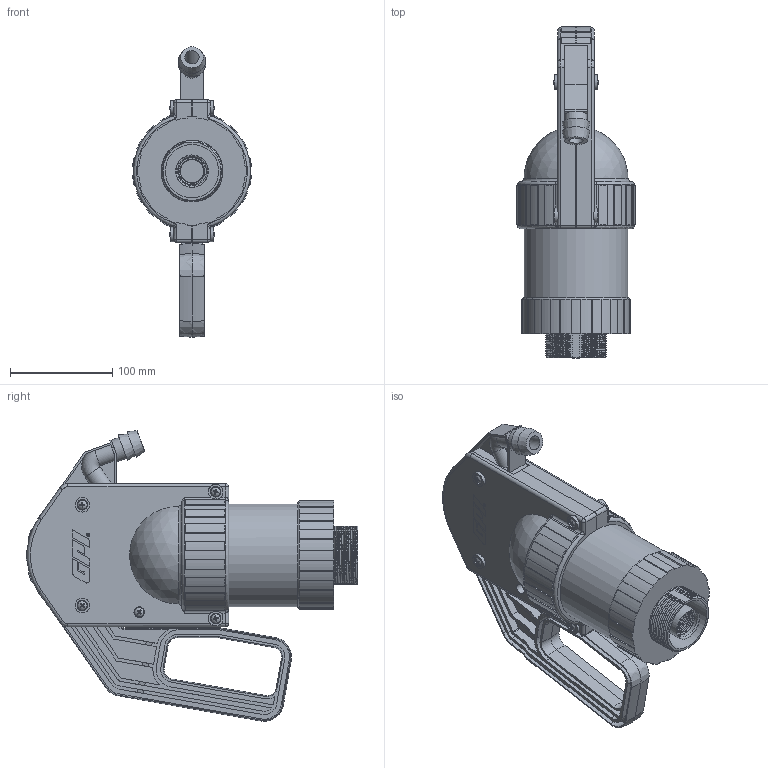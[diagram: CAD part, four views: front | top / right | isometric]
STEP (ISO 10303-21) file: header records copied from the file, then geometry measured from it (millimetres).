
FILE_DESCRIPTION(/* description */ (''),/* implementation_level */ '2;1');
FILE_NAME(/* name */ 'LP-50.stp',/* time_stamp */ '2024-08-01T14:39:37-05:00',/* author */ ('gdanhar'),/* organization */ (''),/* preprocessor_version */ 'ST-DEVELOPER v20',/* originating_system */ 'Autodesk Inventor 2024',/* authorisation */ '');
FILE_SCHEMA (('AUTOMOTIVE_DESIGN { 1 0 10303 214 3 1 1 }'));
Length unit declared in the file: inch
Products named in the file (3): 129000-02; 129000-1_LP-50_PUMP; 904002-22 CONTENT CENTER
Assembly tree (11 placements, depth 2):
  129000-02
    129000-1_LP-50_PUMP
    904002-22 CONTENT CENTER  x10
Bounding box: 116.1 x 324.1 x 283.58 mm (x, y, z)
Volume: 2248337.6 mm3; surface area: 322062.7 mm2
Topology: 13 solids, 13 shells, 1852 faces, 5127 edges, 3376 vertices
Faces by surface type: plane 812, cylinder 803, torus 83, bspline 75, cone 63, sphere 16
Full cylindrical faces by diameter (mm): 3.156 x2, 3.257 x2, 4.826 x10, 9.474 x10, 9.728 x10, 10.312 x10, 13.868 x2, 14.275 x8, 21.819 x1, 22.831 x1, 28.169 x1, 31.75 x1, 52.07 x1, 56.968 x1, 60.325 x1, 100.838 x1, 101.168 x1
Entity records: 37867 total; most frequent: CARTESIAN_POINT 13748, ORIENTED_EDGE 4998, DIRECTION 4602, EDGE_CURVE 2499, VERTEX_POINT 1630, AXIS2_PLACEMENT_3D 1554, LINE 1494, VECTOR 1494
